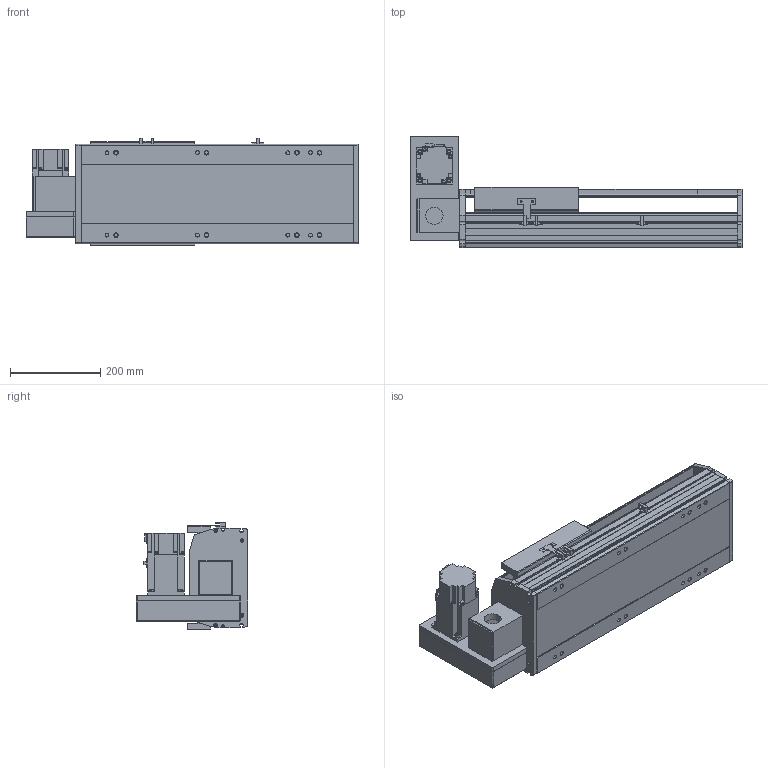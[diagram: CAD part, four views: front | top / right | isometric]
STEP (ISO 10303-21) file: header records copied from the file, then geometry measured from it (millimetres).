
FILE_DESCRIPTION(/* description */ ('STEP AP214'),/* implementation_level */ '2;1');
FILE_NAME(/* name */ 'PBS220-P40-S250-LU-T75-C1-N(0)',/* time_stamp */ '2022-06-13T02:28:42+02:00',/* author */ ('License CC BY-ND 4.0'),/* organization */ ('CADENAS'),/* preprocessor_version */ 'ST-DEVELOPER v18.102',/* originating_system */ 'PARTsolutions',/* authorisation */ ' ');
FILE_SCHEMA (('AUTOMOTIVE_DESIGN {1 0 10303 214 3 1 1}'));
Length unit declared in the file: millimetre
Products named in the file (7): PBS220-P40-S250-LU-T75-C1-N(0); PBS220_sensor; PBS220_plant; PBS220_sliser; T75-p1; PBS220T-LU_motors; PBS220-S250()_body
Assembly tree (8 placements, depth 2):
  PBS220-P40-S250-LU-T75-C1-N(0)
    PBS220_sensor  x3
    PBS220_plant
    PBS220_sliser
    T75-p1
    PBS220T-LU_motors
    PBS220-S250()_body
Bounding box: 734 x 247 x 238.5 mm (x, y, z)
Volume: 11352156.5 mm3; surface area: 1242226.7 mm2
Topology: 8 solids, 8 shells, 866 faces, 2284 edges, 1486 vertices
Faces by surface type: plane 582, cylinder 252, cone 32
Full cylindrical faces by diameter (mm): 2.013 x4, 4.5 x14, 4.917 x4, 6 x7, 6.647 x8, 8 x10, 8.376 x8, 8.5 x8, 10 x6, 14 x8, 38 x2, 40 x1, 70 x1
Entity records: 24381 total; most frequent: DIRECTION 4239, CARTESIAN_POINT 4228, ORIENTED_EDGE 3962, EDGE_CURVE 1981, AXIS2_PLACEMENT_3D 1451, VERTEX_POINT 1352, LINE 1337, VECTOR 1337
